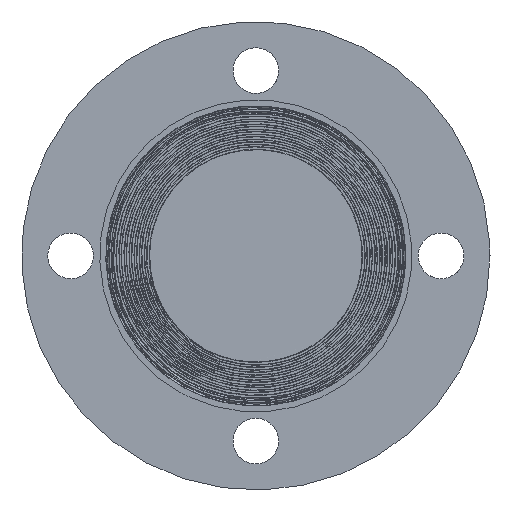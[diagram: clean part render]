
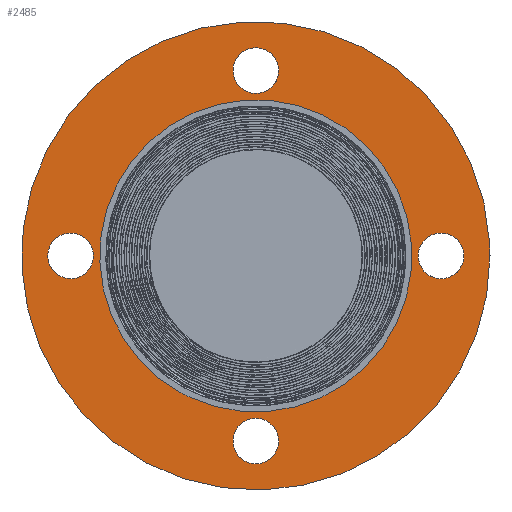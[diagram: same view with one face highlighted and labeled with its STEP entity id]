
A CAD part, left-side view. The second image highlights one B-rep face of the part: STEP entity #2485.
In plain terms, the highlighted planar face has unit normal (-1, 0, 0).
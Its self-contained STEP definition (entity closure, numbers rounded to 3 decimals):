
#2485=ADVANCED_FACE('',(#5062,#5063,#5064,#5065,#5066,#5067),#5068,.T.);
#5062=FACE_OUTER_BOUND('',#10220,.T.);
#5063=FACE_BOUND('',#10221,.T.);
#5064=FACE_BOUND('',#10222,.T.);
#5065=FACE_BOUND('',#10223,.T.);
#5066=FACE_BOUND('',#10224,.T.);
#5067=FACE_BOUND('',#10225,.T.);
#5068=PLANE('',#10226);
#10220=EDGE_LOOP('',(#18967,#18968,#18969));
#10221=EDGE_LOOP('',(#18970,#18971,#18972));
#10222=EDGE_LOOP('',(#18973,#18974,#18975));
#10223=EDGE_LOOP('',(#18976,#18977,#18978));
#10224=EDGE_LOOP('',(#18979,#18980,#18981));
#10225=EDGE_LOOP('',(#18982,#18983,#18984));
#10226=AXIS2_PLACEMENT_3D('',#18985,#18986,#18987);
#18967=ORIENTED_EDGE('',*,*,#19696,.F.);
#18968=ORIENTED_EDGE('',*,*,#19695,.F.);
#18969=ORIENTED_EDGE('',*,*,#22713,.F.);
#18970=ORIENTED_EDGE('',*,*,#22710,.T.);
#18971=ORIENTED_EDGE('',*,*,#19701,.T.);
#18972=ORIENTED_EDGE('',*,*,#22711,.T.);
#18973=ORIENTED_EDGE('',*,*,#19708,.F.);
#18974=ORIENTED_EDGE('',*,*,#19707,.F.);
#18975=ORIENTED_EDGE('',*,*,#22708,.F.);
#18976=ORIENTED_EDGE('',*,*,#19715,.F.);
#18977=ORIENTED_EDGE('',*,*,#19714,.F.);
#18978=ORIENTED_EDGE('',*,*,#22706,.F.);
#18979=ORIENTED_EDGE('',*,*,#19722,.F.);
#18980=ORIENTED_EDGE('',*,*,#19721,.F.);
#18981=ORIENTED_EDGE('',*,*,#22704,.F.);
#18982=ORIENTED_EDGE('',*,*,#22715,.T.);
#18983=ORIENTED_EDGE('',*,*,#19687,.T.);
#18984=ORIENTED_EDGE('',*,*,#22716,.T.);
#18985=CARTESIAN_POINT('',(-26.1,-164.913,-221.52));
#18986=DIRECTION('',(-1.0,0.,0.));
#18987=DIRECTION('',(0.,0.0,1.0));
#19687=EDGE_CURVE('',#23273,#23270,#23274,.T.);
#19695=EDGE_CURVE('',#23286,#23288,#23289,.T.);
#19696=EDGE_CURVE('',#23288,#23280,#23290,.T.);
#19701=EDGE_CURVE('',#23293,#23297,#23299,.T.);
#19707=EDGE_CURVE('',#23308,#23310,#23311,.T.);
#19708=EDGE_CURVE('',#23310,#23302,#23312,.T.);
#19714=EDGE_CURVE('',#23321,#23323,#23324,.T.);
#19715=EDGE_CURVE('',#23323,#23315,#23325,.T.);
#19721=EDGE_CURVE('',#23334,#23336,#23337,.T.);
#19722=EDGE_CURVE('',#23336,#23328,#23338,.T.);
#22704=EDGE_CURVE('',#23328,#23334,#27779,.T.);
#22706=EDGE_CURVE('',#23315,#23321,#27781,.T.);
#22708=EDGE_CURVE('',#23302,#23308,#27783,.T.);
#22710=EDGE_CURVE('',#27785,#23293,#27786,.T.);
#22711=EDGE_CURVE('',#23297,#27785,#27787,.T.);
#22713=EDGE_CURVE('',#23280,#23286,#27789,.T.);
#22715=EDGE_CURVE('',#27791,#23273,#27792,.T.);
#22716=EDGE_CURVE('',#23270,#27791,#27793,.T.);
#23270=VERTEX_POINT('',#29917);
#23273=VERTEX_POINT('',#29921);
#23274=CIRCLE('',#29922,61.5);
#23280=VERTEX_POINT('',#29929);
#23286=VERTEX_POINT('',#29936);
#23288=VERTEX_POINT('',#29939);
#23289=CIRCLE('',#29940,92.3);
#23290=CIRCLE('',#29941,92.3);
#23293=VERTEX_POINT('',#29944);
#23297=VERTEX_POINT('',#29949);
#23299=CIRCLE('',#29952,9.);
#23302=VERTEX_POINT('',#29955);
#23308=VERTEX_POINT('',#29962);
#23310=VERTEX_POINT('',#29965);
#23311=CIRCLE('',#29966,9.);
#23312=CIRCLE('',#29967,9.);
#23315=VERTEX_POINT('',#29970);
#23321=VERTEX_POINT('',#29977);
#23323=VERTEX_POINT('',#29980);
#23324=CIRCLE('',#29981,9.);
#23325=CIRCLE('',#29982,9.);
#23328=VERTEX_POINT('',#29985);
#23334=VERTEX_POINT('',#29992);
#23336=VERTEX_POINT('',#29995);
#23337=CIRCLE('',#29996,9.);
#23338=CIRCLE('',#29997,9.);
#27779=CIRCLE('',#39435,9.);
#27781=CIRCLE('',#39437,9.);
#27783=CIRCLE('',#39439,9.);
#27785=VERTEX_POINT('',#39441);
#27786=CIRCLE('',#39442,9.);
#27787=CIRCLE('',#39443,9.);
#27789=CIRCLE('',#39445,92.3);
#27791=VERTEX_POINT('',#39447);
#27792=CIRCLE('',#39448,61.5);
#27793=CIRCLE('',#39449,61.5);
#29917=CARTESIAN_POINT('',(-26.1,26.329,-55.579));
#29921=CARTESIAN_POINT('',(-26.1,-26.329,55.579));
#29922=AXIS2_PLACEMENT_3D('',#41065,#41066,#41067);
#29929=CARTESIAN_POINT('',(-26.1,92.147,-5.313));
#29936=CARTESIAN_POINT('',(-26.1,-92.147,5.313));
#29939=CARTESIAN_POINT('',(-26.1,-92.3,0.));
#29940=AXIS2_PLACEMENT_3D('',#41080,#41081,#41082);
#29941=AXIS2_PLACEMENT_3D('',#41083,#41084,#41085);
#29944=CARTESIAN_POINT('',(-26.1,76.853,-8.134));
#29949=CARTESIAN_POINT('',(-26.1,69.147,8.134));
#29952=AXIS2_PLACEMENT_3D('',#41091,#41092,#41093);
#29955=CARTESIAN_POINT('',(-26.1,8.134,-69.147));
#29962=CARTESIAN_POINT('',(-26.1,-8.134,-76.853));
#29965=CARTESIAN_POINT('',(-26.1,7.898,-68.685));
#29966=AXIS2_PLACEMENT_3D('',#41102,#41103,#41104);
#29967=AXIS2_PLACEMENT_3D('',#41105,#41106,#41107);
#29970=CARTESIAN_POINT('',(-26.1,-69.147,-8.134));
#29977=CARTESIAN_POINT('',(-26.1,-76.853,8.134));
#29980=CARTESIAN_POINT('',(-26.1,-68.685,-7.898));
#29981=AXIS2_PLACEMENT_3D('',#41116,#41117,#41118);
#29982=AXIS2_PLACEMENT_3D('',#41119,#41120,#41121);
#29985=CARTESIAN_POINT('',(-26.1,-8.134,69.147));
#29992=CARTESIAN_POINT('',(-26.1,8.134,76.853));
#29995=CARTESIAN_POINT('',(-26.1,-7.898,68.685));
#29996=AXIS2_PLACEMENT_3D('',#41130,#41131,#41132);
#29997=AXIS2_PLACEMENT_3D('',#41133,#41134,#41135);
#39435=AXIS2_PLACEMENT_3D('',#43572,#43573,#43574);
#39437=AXIS2_PLACEMENT_3D('',#43575,#43576,#43577);
#39439=AXIS2_PLACEMENT_3D('',#43578,#43579,#43580);
#39441=CARTESIAN_POINT('',(-26.1,68.685,7.898));
#39442=AXIS2_PLACEMENT_3D('',#43581,#43582,#43583);
#39443=AXIS2_PLACEMENT_3D('',#43584,#43585,#43586);
#39445=AXIS2_PLACEMENT_3D('',#43587,#43588,#43589);
#39447=CARTESIAN_POINT('',(-26.1,29.485,-53.971));
#39448=AXIS2_PLACEMENT_3D('',#43590,#43591,#43592);
#39449=AXIS2_PLACEMENT_3D('',#43593,#43594,#43595);
#41065=CARTESIAN_POINT('',(-26.1,0.,0.));
#41066=DIRECTION('',(1.0,0.,0.));
#41067=DIRECTION('',(0.,-0.479,0.878));
#41080=CARTESIAN_POINT('',(-26.1,0.,0.));
#41081=DIRECTION('',(1.0,0.,0.));
#41082=DIRECTION('',(0.,-1.0,0.));
#41083=CARTESIAN_POINT('',(-26.1,0.,0.));
#41084=DIRECTION('',(1.0,0.,0.));
#41085=DIRECTION('',(0.,-1.0,0.));
#41091=CARTESIAN_POINT('',(-26.1,73.,0.));
#41092=DIRECTION('',(1.0,0.,0.));
#41093=DIRECTION('',(0.,0.479,-0.878));
#41102=CARTESIAN_POINT('',(-26.1,0.,-73.));
#41103=DIRECTION('',(-1.0,0.,0.));
#41104=DIRECTION('',(0.,-0.878,-0.479));
#41105=CARTESIAN_POINT('',(-26.1,0.,-73.));
#41106=DIRECTION('',(-1.0,0.,0.));
#41107=DIRECTION('',(0.,-0.878,-0.479));
#41116=CARTESIAN_POINT('',(-26.1,-73.,0.));
#41117=DIRECTION('',(-1.0,0.,0.));
#41118=DIRECTION('',(0.,-0.479,0.878));
#41119=CARTESIAN_POINT('',(-26.1,-73.,0.));
#41120=DIRECTION('',(-1.0,0.,0.));
#41121=DIRECTION('',(0.,-0.479,0.878));
#41130=CARTESIAN_POINT('',(-26.1,0.,73.));
#41131=DIRECTION('',(-1.0,0.,0.));
#41132=DIRECTION('',(0.,-0.878,-0.479));
#41133=CARTESIAN_POINT('',(-26.1,0.,73.));
#41134=DIRECTION('',(-1.0,0.,0.));
#41135=DIRECTION('',(0.,-0.878,-0.479));
#43572=CARTESIAN_POINT('',(-26.1,0.,73.));
#43573=DIRECTION('',(-1.0,0.,0.));
#43574=DIRECTION('',(0.,-0.878,-0.479));
#43575=CARTESIAN_POINT('',(-26.1,-73.,0.));
#43576=DIRECTION('',(-1.0,0.,0.));
#43577=DIRECTION('',(0.,-0.479,0.878));
#43578=CARTESIAN_POINT('',(-26.1,0.,-73.));
#43579=DIRECTION('',(-1.0,0.,0.));
#43580=DIRECTION('',(0.,-0.878,-0.479));
#43581=CARTESIAN_POINT('',(-26.1,73.,0.));
#43582=DIRECTION('',(1.0,0.,0.));
#43583=DIRECTION('',(0.,0.479,-0.878));
#43584=CARTESIAN_POINT('',(-26.1,73.,0.));
#43585=DIRECTION('',(1.0,0.,0.));
#43586=DIRECTION('',(0.,0.479,-0.878));
#43587=CARTESIAN_POINT('',(-26.1,0.,0.));
#43588=DIRECTION('',(1.0,0.,0.));
#43589=DIRECTION('',(0.,-1.0,0.));
#43590=CARTESIAN_POINT('',(-26.1,0.,0.));
#43591=DIRECTION('',(1.0,0.,0.));
#43592=DIRECTION('',(0.,-0.479,0.878));
#43593=CARTESIAN_POINT('',(-26.1,0.,0.));
#43594=DIRECTION('',(1.0,0.,0.));
#43595=DIRECTION('',(0.,-0.479,0.878));
